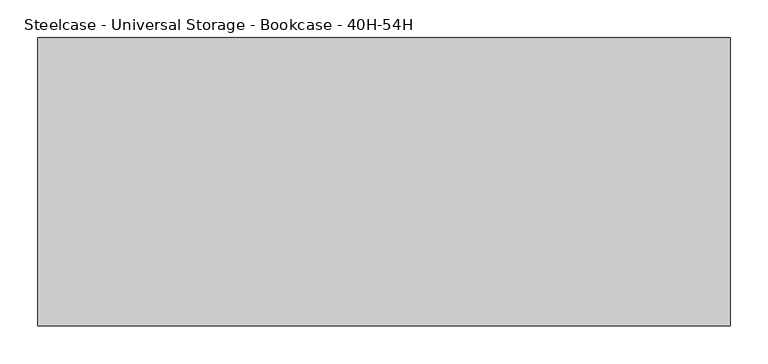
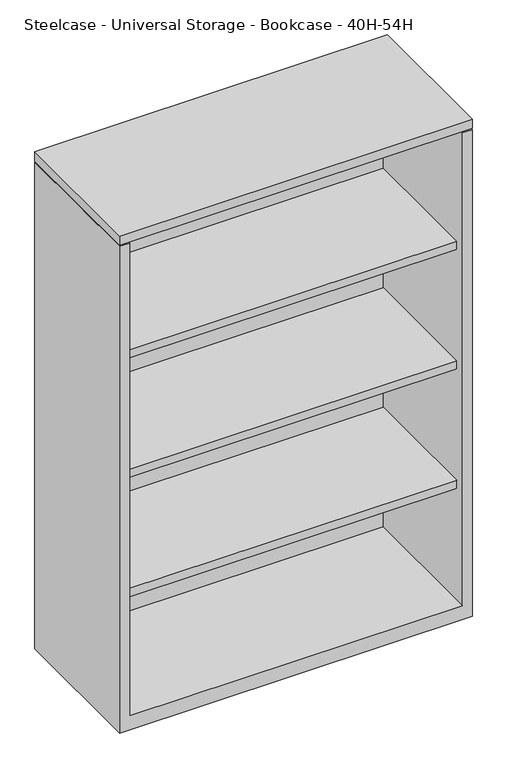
"""IFC4 building model written with IfcOpenShell, lengths in millimetres: furniture geometry, Steelcase - Universal Storage - Bookcase - 40H-54H : 53 1/2H x 36W."""

from ifc_helpers import new_model, si_unit, frame, origin, place, context, project, spatial, polyline, outline, extrude, faceted_brep, source, transform, mapped, element, save


def steelcase_universal_storage_bookcase_40h_54h_f731992e(model_context):
    return source(origin(), model_context, "Body", "SolidModel", [
        extrude(outline(polyline([(914.4, -98.552), (914.4, -479.552), (0.0, -479.552), (0.0, -98.552), (914.4, -98.552)])), frame((0.0, 0.0, 1336.5479031), z_axis=(0.0, 0.0, 1.0), x_axis=(1.0, 0.0, 0.0)), (0.0, 0.0, 1.0), 25.4000484),
        extrude(outline(polyline([(889.0000242, -123.9520008), (889.0000242, -454.0250121), (25.4000008, -454.0250121), (25.4000008, -123.9520008), (889.0000242, -123.9520008)])), frame((0.0, 0.0, 344.424), z_axis=(0.0, 0.0, 1.0), x_axis=(1.0, 0.0, 0.0)), (0.0, 0.0, 1.0), 22.2249516),
        extrude(outline(polyline([(889.0000242, -123.9520008), (889.0000242, -454.0250121), (25.4000008, -454.0250121), (25.4000008, -123.9520008), (889.0000242, -123.9520008)])), frame((0.0, 0.0, 671.4489516), z_axis=(0.0, 0.0, 1.0), x_axis=(1.0, 0.0, 0.0)), (0.0, 0.0, 1.0), 22.2249516),
        extrude(outline(polyline([(889.0000242, -123.9520008), (889.0000242, -454.0250121), (25.4000008, -454.0250121), (25.4000008, -123.9520008), (889.0000242, -123.9520008)])), frame((0.0, 0.0, 998.4739031), z_axis=(0.0, 0.0, 1.0), x_axis=(1.0, 0.0, 0.0)), (0.0, 0.0, 1.0), 22.2249516),
        faceted_brep([(25.4000008, -479.552, 38.1), (889.0000242, -479.552, 38.1), (889.0000242, -123.9520008, 38.1), (25.4000008, -123.9520008, 38.1), (914.4, -98.552, 0.0), (914.4, -479.552, 0.0), (0.0, -479.552, 0.0), (0.0, -98.552, 0.0), (0.0, -98.552, 1333.5), (914.4, -98.552, 1333.5), (0.0, -479.552, 1333.5), (914.4, -479.552, 1333.5), (889.0000242, -479.552, 1333.5), (25.4000008, -479.552, 1333.5), (889.0000242, -123.9520008, 1333.5), (25.4000008, -123.9520008, 1333.5)], [[[0, 1, 2, 3]], [[4, 5, 6, 7]], [[4, 7, 8, 9]], [[8, 7, 6, 10]], [[10, 6, 5, 11, 12, 1, 0, 13]], [[11, 5, 4, 9]], [[14, 12, 11, 9, 8, 10, 13, 15]], [[12, 14, 2, 1]], [[15, 13, 0, 3]], [[14, 15, 3, 2]]]),
    ])


if __name__ == "__main__":
    model = new_model("IFC4")
    model_context = context("Model", 3, world=origin())
    ifc_project = project(units=[si_unit("LENGTHUNIT", "METRE", prefix="MILLI")], contexts=[model_context])
    site = spatial("IfcSite", under=ifc_project)
    building = spatial("IfcBuilding", under=site)
    placement = place(None, origin())
    steelcase_universal_storage_bookcase_40h_54h_shape = steelcase_universal_storage_bookcase_40h_54h_f731992e(model_context)
    element("IfcFurniture", 1, ObjectType="Steelcase - Universal Storage - Bookcase - 40H-54H : 53 1/2H x 36W", at=placement, inside=building, context=model_context, shape_type="MappedRepresentation", body=[
        mapped(steelcase_universal_storage_bookcase_40h_54h_shape, transform((0.0, 0.0, 0.0), x_axis=(1.0, 0.0, 0.0), y_axis=(0.0, 1.0, 0.0), z_axis=(0.0, 0.0, 1.0))),
    ])
    save(model, "model.ifc")
